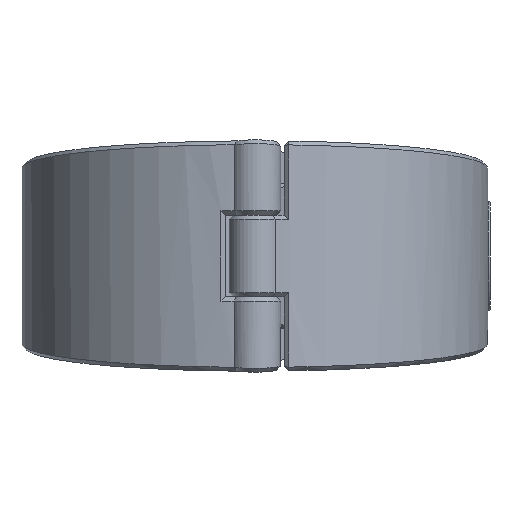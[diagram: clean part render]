
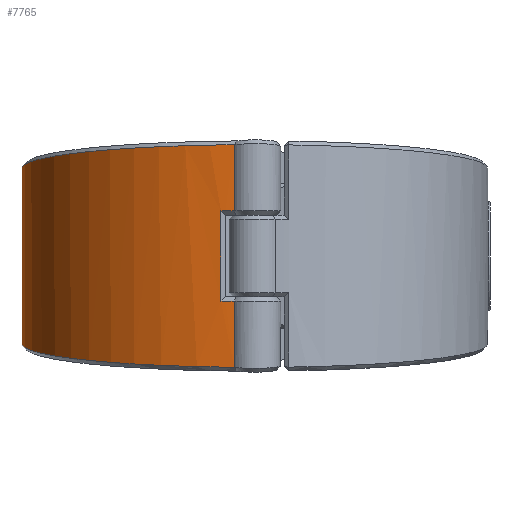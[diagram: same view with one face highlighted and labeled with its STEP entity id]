
A CAD part, front view. The second image highlights one B-rep face of the part: STEP entity #7765.
In plain terms, the highlighted cylindrical face has radius 110 mm (diameter 220 mm), a partial arc.
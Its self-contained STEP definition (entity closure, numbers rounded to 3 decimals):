
#263=CYLINDRICAL_SURFACE('',#8320,110.);
#584=FACE_OUTER_BOUND('',#1104,.T.);
#1104=EDGE_LOOP('',(#5280,#5281,#5282,#5283,#5284,#5285,#5286,#5287,#5288,
#5289,#5290,#5291));
#1644=B_SPLINE_CURVE_WITH_KNOTS('',3,(#11843,#11844,#11845,#11846),
 .UNSPECIFIED.,.F.,.F.,(4,4),(-0.001,0.),.UNSPECIFIED.);
#1645=B_SPLINE_CURVE_WITH_KNOTS('',3,(#11848,#11849,#11850,#11851),
 .UNSPECIFIED.,.F.,.F.,(4,4),(-3.053,-3.053),
 .UNSPECIFIED.);
#1646=B_SPLINE_CURVE_WITH_KNOTS('',3,(#11853,#11854,#11855,#11856,#11857,
#11858,#11859,#11860,#11861,#11862),.UNSPECIFIED.,.F.,.F.,(4,1,1,1,1,1,
1,4),(0.317,0.657,1.057,1.458,
1.859,2.26,2.661,3.053),
 .UNSPECIFIED.);
#1647=B_SPLINE_CURVE_WITH_KNOTS('',3,(#11866,#11867,#11868,#11869,#11870,
#11871,#11872,#11873,#11874,#11875),.UNSPECIFIED.,.F.,.F.,(4,1,1,1,1,1,
1,4),(-3.053,-2.661,-2.26,-1.859,
-1.458,-1.057,-0.657,-0.317),
 .UNSPECIFIED.);
#1648=B_SPLINE_CURVE_WITH_KNOTS('',3,(#11877,#11878,#11879,#11880),
 .UNSPECIFIED.,.F.,.F.,(4,4),(3.053,3.053),
 .UNSPECIFIED.);
#1649=B_SPLINE_CURVE_WITH_KNOTS('',3,(#11882,#11883,#11884,#11885),
 .UNSPECIFIED.,.F.,.F.,(4,4),(-0.354,-0.353),
 .UNSPECIFIED.);
#1921=LINE('',#11777,#2291);
#1927=LINE('',#11841,#2297);
#1928=LINE('',#11864,#2298);
#1929=LINE('',#11886,#2299);
#2291=VECTOR('',#9336,10.);
#2297=VECTOR('',#9382,10.);
#2298=VECTOR('',#9383,10.);
#2299=VECTOR('',#9384,10.);
#2666=CIRCLE('',#8310,110.);
#2669=CIRCLE('',#8315,110.);
#3229=VERTEX_POINT('',#11771);
#3230=VERTEX_POINT('',#11776);
#3236=VERTEX_POINT('',#11797);
#3239=VERTEX_POINT('',#11818);
#3243=VERTEX_POINT('',#11840);
#3244=VERTEX_POINT('',#11842);
#3245=VERTEX_POINT('',#11847);
#3246=VERTEX_POINT('',#11852);
#3247=VERTEX_POINT('',#11863);
#3248=VERTEX_POINT('',#11865);
#3249=VERTEX_POINT('',#11876);
#3250=VERTEX_POINT('',#11881);
#3984=EDGE_CURVE('',#3229,#3230,#1921,.T.);
#3997=EDGE_CURVE('',#3236,#3229,#2666,.T.);
#4002=EDGE_CURVE('',#3230,#3239,#2669,.T.);
#4008=EDGE_CURVE('',#3243,#3236,#1927,.T.);
#4009=EDGE_CURVE('',#3244,#3243,#1644,.T.);
#4010=EDGE_CURVE('',#3244,#3245,#1645,.T.);
#4011=EDGE_CURVE('',#3246,#3245,#1646,.T.);
#4012=EDGE_CURVE('',#3247,#3246,#1928,.T.);
#4013=EDGE_CURVE('',#3248,#3247,#1647,.T.);
#4014=EDGE_CURVE('',#3248,#3249,#1648,.T.);
#4015=EDGE_CURVE('',#3250,#3249,#1649,.T.);
#4016=EDGE_CURVE('',#3239,#3250,#1929,.T.);
#5280=ORIENTED_EDGE('',*,*,#4002,.F.);
#5281=ORIENTED_EDGE('',*,*,#3984,.F.);
#5282=ORIENTED_EDGE('',*,*,#3997,.F.);
#5283=ORIENTED_EDGE('',*,*,#4008,.F.);
#5284=ORIENTED_EDGE('',*,*,#4009,.F.);
#5285=ORIENTED_EDGE('',*,*,#4010,.T.);
#5286=ORIENTED_EDGE('',*,*,#4011,.F.);
#5287=ORIENTED_EDGE('',*,*,#4012,.F.);
#5288=ORIENTED_EDGE('',*,*,#4013,.F.);
#5289=ORIENTED_EDGE('',*,*,#4014,.T.);
#5290=ORIENTED_EDGE('',*,*,#4015,.F.);
#5291=ORIENTED_EDGE('',*,*,#4016,.F.);
#7765=ADVANCED_FACE('',(#584),#263,.T.);
#8310=AXIS2_PLACEMENT_3D('',#11813,#9358,#9359);
#8315=AXIS2_PLACEMENT_3D('',#11827,#9368,#9369);
#8320=AXIS2_PLACEMENT_3D('',#11839,#9380,#9381);
#9336=DIRECTION('',(0.,0.,-1.));
#9358=DIRECTION('center_axis',(0.,0.,-1.));
#9359=DIRECTION('ref_axis',(0.312,-0.95,0.));
#9368=DIRECTION('center_axis',(0.,0.,1.));
#9369=DIRECTION('ref_axis',(0.312,-0.95,0.));
#9380=DIRECTION('center_axis',(0.,0.,1.));
#9381=DIRECTION('ref_axis',(-0.312,0.95,0.));
#9382=DIRECTION('',(0.,0.,-1.));
#9383=DIRECTION('',(0.,0.,1.));
#9384=DIRECTION('',(0.,0.,-1.));
#11771=CARTESIAN_POINT('',(-15.981,-108.833,21.25));
#11776=CARTESIAN_POINT('',(-15.981,-108.833,-21.25));
#11777=CARTESIAN_POINT('',(-15.981,-108.833,0.));
#11797=CARTESIAN_POINT('',(-9.723,-109.569,21.25));
#11813=CARTESIAN_POINT('Origin',(0.,0.,21.25));
#11818=CARTESIAN_POINT('',(-9.723,-109.569,-21.25));
#11827=CARTESIAN_POINT('Origin',(0.,0.,-21.25));
#11839=CARTESIAN_POINT('Origin',(0.,0.,0.));
#11840=CARTESIAN_POINT('',(-9.723,-109.569,52.508));
#11841=CARTESIAN_POINT('',(-9.723,-109.569,0.));
#11842=CARTESIAN_POINT('',(-9.714,-109.57,52.515));
#11843=CARTESIAN_POINT('Ctrl Pts',(-9.714,-109.57,
52.515));
#11844=CARTESIAN_POINT('Ctrl Pts',(-9.717,-109.57,
52.512));
#11845=CARTESIAN_POINT('Ctrl Pts',(-9.72,-109.57,
52.51));
#11846=CARTESIAN_POINT('Ctrl Pts',(-9.723,-109.569,
52.508));
#11847=CARTESIAN_POINT('',(-9.723,-109.569,52.514));
#11848=CARTESIAN_POINT('Ctrl Pts',(-9.714,-109.57,52.515));
#11849=CARTESIAN_POINT('Ctrl Pts',(-9.717,-109.57,
52.514));
#11850=CARTESIAN_POINT('Ctrl Pts',(-9.72,-109.57,
52.514));
#11851=CARTESIAN_POINT('Ctrl Pts',(-9.723,-109.569,52.514));
#11852=CARTESIAN_POINT('',(-34.347,104.5,30.999));
#11853=CARTESIAN_POINT('Ctrl Pts',(-34.347,104.498,30.999));
#11854=CARTESIAN_POINT('Ctrl Pts',(-46.192,100.598,31.39));
#11855=CARTESIAN_POINT('Ctrl Pts',(-70.572,87.689,32.686));
#11856=CARTESIAN_POINT('Ctrl Pts',(-98.524,55.339,35.933));
#11857=CARTESIAN_POINT('Ctrl Pts',(-112.294,12.48,40.238));
#11858=CARTESIAN_POINT('Ctrl Pts',(-108.271,-32.324,
44.741));
#11859=CARTESIAN_POINT('Ctrl Pts',(-87.087,-71.971,
48.73));
#11860=CARTESIAN_POINT('Ctrl Pts',(-52.416,-100.016,
51.552));
#11861=CARTESIAN_POINT('Ctrl Pts',(-24.016,-108.3,
52.387));
#11862=CARTESIAN_POINT('Ctrl Pts',(-9.723,-109.569,
52.514));
#11863=CARTESIAN_POINT('',(-34.347,104.5,-30.999));
#11864=CARTESIAN_POINT('',(-34.347,104.5,0.));
#11865=CARTESIAN_POINT('',(-9.723,-109.569,-52.514));
#11866=CARTESIAN_POINT('Ctrl Pts',(-9.723,-109.569,-52.514));
#11867=CARTESIAN_POINT('Ctrl Pts',(-24.016,-108.3,
-52.387));
#11868=CARTESIAN_POINT('Ctrl Pts',(-52.41,-100.011,
-51.552));
#11869=CARTESIAN_POINT('Ctrl Pts',(-87.096,-71.977,
-48.73));
#11870=CARTESIAN_POINT('Ctrl Pts',(-108.259,-32.321,
-44.741));
#11871=CARTESIAN_POINT('Ctrl Pts',(-112.306,12.48,-40.238));
#11872=CARTESIAN_POINT('Ctrl Pts',(-98.513,55.334,-35.933));
#11873=CARTESIAN_POINT('Ctrl Pts',(-70.577,87.693,-32.685));
#11874=CARTESIAN_POINT('Ctrl Pts',(-46.193,100.599,-31.39));
#11875=CARTESIAN_POINT('Ctrl Pts',(-34.347,104.498,-30.999));
#11876=CARTESIAN_POINT('',(-9.714,-109.57,-52.515));
#11877=CARTESIAN_POINT('Ctrl Pts',(-9.723,-109.569,
-52.514));
#11878=CARTESIAN_POINT('Ctrl Pts',(-9.72,-109.57,-52.514));
#11879=CARTESIAN_POINT('Ctrl Pts',(-9.717,-109.57,
-52.514));
#11880=CARTESIAN_POINT('Ctrl Pts',(-9.714,-109.57,
-52.515));
#11881=CARTESIAN_POINT('',(-9.723,-109.569,-52.508));
#11882=CARTESIAN_POINT('Ctrl Pts',(-9.722,-109.569,
-52.508));
#11883=CARTESIAN_POINT('Ctrl Pts',(-9.719,-109.569,
-52.51));
#11884=CARTESIAN_POINT('Ctrl Pts',(-9.717,-109.569,
-52.512));
#11885=CARTESIAN_POINT('Ctrl Pts',(-9.714,-109.57,-52.514));
#11886=CARTESIAN_POINT('',(-9.723,-109.569,0.));
